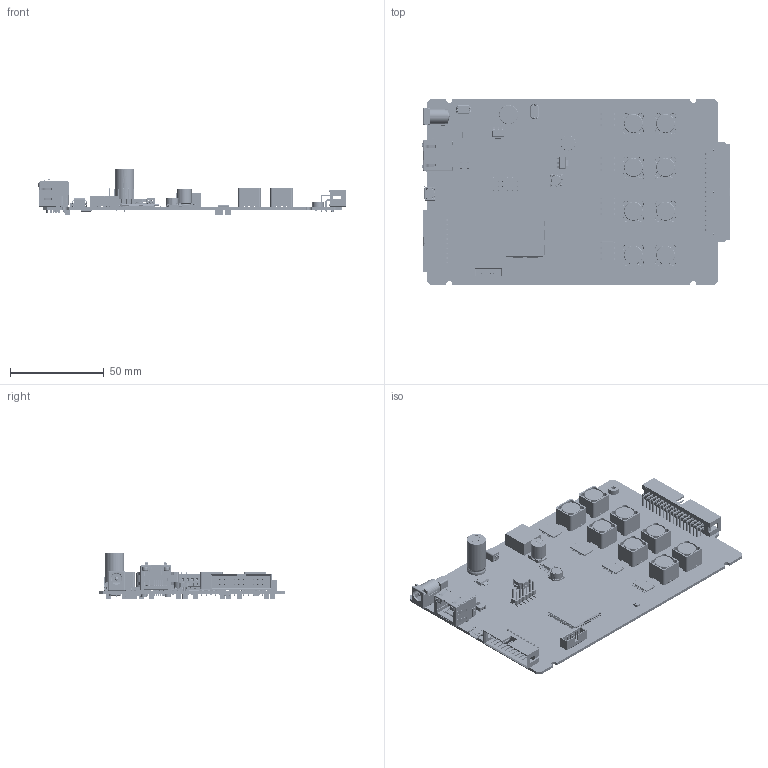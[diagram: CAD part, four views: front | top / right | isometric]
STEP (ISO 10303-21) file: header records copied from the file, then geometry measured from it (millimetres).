
FILE_DESCRIPTION(('Open CASCADE Model'),'2;1');
FILE_NAME('Open CASCADE Shape Model','2023-01-09T16:22:20',('Author'),( 'Open CASCADE'),'Open CASCADE STEP processor 6.8','Open CASCADE 6.8' ,'Unknown');
FILE_SCHEMA(('AUTOMOTIVE_DESIGN { 1 0 10303 214 1 1 1 1 }'));
Products named in the file (1): PCB
Bounding box: 164.64 x 99.5 x 24.74 mm (x, y, z)
Volume: 40521.9 mm3; surface area: 63562.1 mm2
Topology: 366 solids, 8090 shells, 16868 faces, 52965 edges, 44175 vertices
Faces by surface type: plane 12441, cylinder 3470, bspline 348, sphere 326, torus 159, revolution 68, cone 46, extrusion 10
Full cylindrical faces by diameter (mm): 0.5 x26, 0.75 x10, 0.85 x12, 1 x4, 2.459 x1, 4.2 x1, 6 x1, 8 x1
Entity records: 679380 total; most frequent: CARTESIAN_POINT 155379, DIRECTION 90927, ORIENTED_EDGE 76592, EDGE_CURVE 52581, VERTEX_POINT 44174, VECTOR 42401, LINE 42391, AXIS2_PLACEMENT_3D 24229
